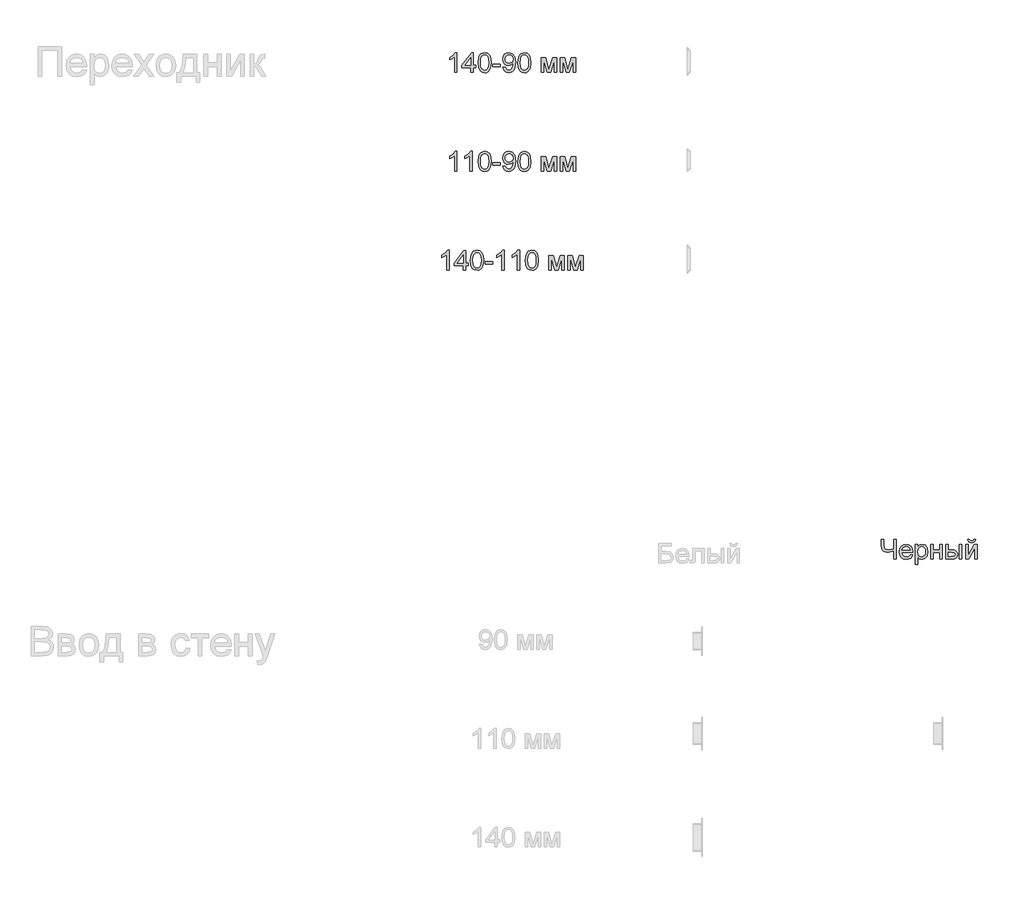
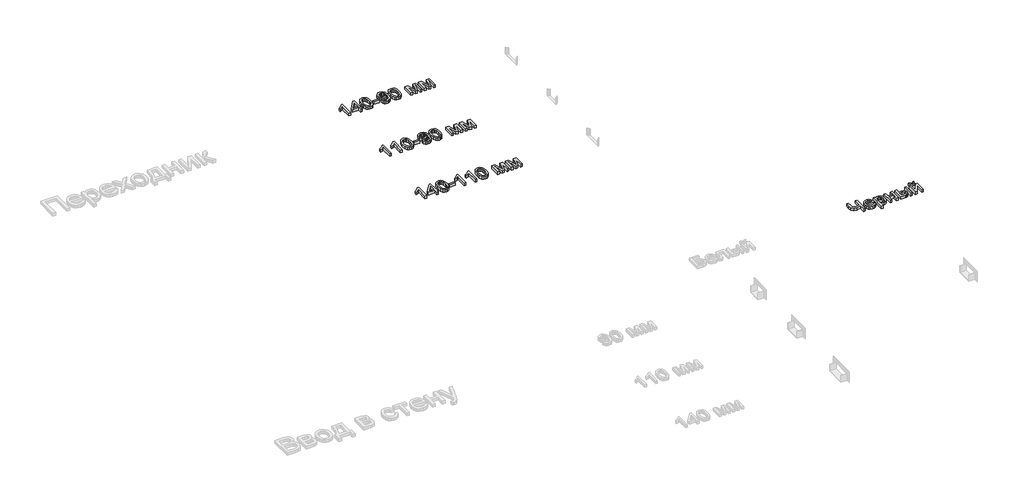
# One storey, part 6 of 48: 4 proxies.
"""IFC4 building model written with IfcOpenShell, lengths in millimetres."""

import ifcopenshell
import ifcopenshell.guid

model = None  # the IFC model being written
_history = None  # IfcOwnerHistory: only IFC2X3 demands one
_inside = {}  # id of a spatial element -> (the spatial element, [elements in it])
_under = {}  # id of a project, library or spatial element -> (it, [spatial elements below it])
_declared = {}  # id of a project -> (the project, [libraries it declares])
_typed = {}  # id of a type object -> (the type object, [elements of that type])
_made_of = {}  # id of a material, layer set ... -> (it, [elements and type objects made of it])


def new_model(schema):
    """Start an empty IFC model of exactly this schema.

    Asked for "IFC4X3", IfcOpenShell would pick the latest addendum, in which some entities
    have other attributes; the version numbers below select the first issue.
    IFC2X3 requires an IfcOwnerHistory on every rooted entity: one is made here for all.
    """
    global model, _history
    if schema == "IFC4X3":
        model = ifcopenshell.file(schema_version=(4, 3, 0, 0))
    else:
        model = ifcopenshell.file(schema=schema)
    _inside.clear()
    _under.clear()
    _declared.clear()
    _typed.clear()
    _made_of.clear()
    _history = None
    if model.schema == "IFC2X3":
        org = make("IfcOrganization", Name="unknown")
        user = make(
            "IfcPersonAndOrganization",
            ThePerson=make("IfcPerson", FamilyName="unknown"),
            TheOrganization=org,
        )
        app = make(
            "IfcApplication",
            ApplicationDeveloper=org,
            Version="unknown",
            ApplicationFullName="unknown",
            ApplicationIdentifier="unknown",
        )
        _history = make(
            "IfcOwnerHistory",
            OwningUser=user,
            OwningApplication=app,
            ChangeAction="ADDED",
            CreationDate=0,
        )
    return model


def make(cls, **values):
    """One entity of the class cls with the attributes given. An attribute that is None is left unset."""
    return model.create_entity(
        cls, **{name: value for name, value in values.items() if value is not None}
    )


def rooted(cls, **values):
    """An entity with a GlobalId (a new one), such as an element, a storey or a relation."""
    return make(cls, GlobalId=ifcopenshell.guid.new(), OwnerHistory=_history, **values)


def si_unit(unit_type, name, prefix=None):
    """IfcSIUnit, for example si_unit("LENGTHUNIT", "METRE", prefix="MILLI")."""
    return make("IfcSIUnit", UnitType=unit_type, Prefix=prefix, Name=name)


def assignment(units):
    """IfcUnitAssignment: the units of a project."""
    return None if units is None else make("IfcUnitAssignment", Units=units)


def point(xyz):
    """IfcCartesianPoint."""
    return None if xyz is None else make("IfcCartesianPoint", Coordinates=xyz)


def direction(xyz):
    """IfcDirection."""
    return None if xyz is None else make("IfcDirection", DirectionRatios=xyz)


def frame(location, z_axis=None, x_axis=None):
    """IfcAxis2Placement3D, a coordinate frame: its origin and axes. An axis left out is left unset."""
    return make(
        "IfcAxis2Placement3D",
        Location=point(location),
        Axis=direction(z_axis),
        RefDirection=direction(x_axis),
    )


def origin():
    """The frame at (0, 0, 0) with its axes left unset."""
    return frame((0.0, 0.0, 0.0))


def origin_with_axes():
    """The frame at (0, 0, 0) with the z axis (0, 0, 1) and the x axis (1, 0, 0) written out."""
    return frame((0.0, 0.0, 0.0), z_axis=(0.0, 0.0, 1.0), x_axis=(1.0, 0.0, 0.0))


def place(relative_to, where):
    """IfcLocalPlacement: puts the frame where relative to a parent placement (None: the world)."""
    return make(
        "IfcLocalPlacement", PlacementRelTo=relative_to, RelativePlacement=where
    )


def context(
    kind, dimensions, precision=None, world=None, true_north=None, identifier=None
):
    """IfcGeometricRepresentationContext, for example the 3D "Model" context."""
    return make(
        "IfcGeometricRepresentationContext",
        ContextIdentifier=identifier,
        ContextType=kind,
        CoordinateSpaceDimension=dimensions,
        Precision=precision,
        WorldCoordinateSystem=world,
        TrueNorth=true_north,
    )


def project(units=None, contexts=None):
    """IfcProject with its units and contexts."""
    return rooted(
        "IfcProject",
        Name="project",
        RepresentationContexts=contexts,
        UnitsInContext=assignment(units),
    )


def spatial(cls, under=None, at=None, **own):
    """A site, building, storey or space (cls), placed at a placement, below another one or the project."""
    s = rooted(cls, ObjectPlacement=at, **own)
    if under is not None:
        _under.setdefault(under.id(), (under, []))[1].append(s)
    return s


def polyline(points):
    """IfcPolyline through the points."""
    return make("IfcPolyline", Points=[point(p) for p in points])


def outline(outer, holes=None, kind="AREA"):
    """IfcArbitraryClosedProfileDef: a profile drawn as a closed curve; with holes, ...WithVoids."""
    if holes is None:
        return make("IfcArbitraryClosedProfileDef", ProfileType=kind, OuterCurve=outer)
    return make(
        "IfcArbitraryProfileDefWithVoids",
        ProfileType=kind,
        OuterCurve=outer,
        InnerCurves=holes,
    )


def extrude(swept, where, along, depth):
    """IfcExtrudedAreaSolid: the profile swept, set in the frame where, extruded along a direction by depth."""
    return make(
        "IfcExtrudedAreaSolid",
        SweptArea=swept,
        Position=where,
        ExtrudedDirection=direction(along),
        Depth=depth,
    )


def shape(context_of_items, identifier, shape_type, items):
    """IfcShapeRepresentation: the items that make up one representation, for example the "Body"."""
    return make(
        "IfcShapeRepresentation",
        ContextOfItems=context_of_items,
        RepresentationIdentifier=identifier,
        RepresentationType=shape_type,
        Items=items,
    )


def made_of(thing, what):
    """Note that an element or type object is made of a material, layer set ...; save() writes the relation."""
    if what is not None:
        _made_of.setdefault(what.id(), (what, []))[1].append(thing)
    return thing


def element(
    cls,
    number,
    at=None,
    inside=None,
    cuts=None,
    type_object=None,
    material=None,
    context=None,
    identifier="Body",
    shape_type=None,
    held_by="IfcProductDefinitionShape",
    body=None,
    shapes=None,
    **own,
):
    """One element of the class cls, such as IfcWall. Its Tag is "e" and its number.

    at: its placement. inside: the storey or other place that contains it. cuts: it is an
    opening in that element (IfcRelVoidsElement). A single representation is given by context,
    identifier, shape_type and body (its items); several are given by shapes. held_by: the class
    of the entity that holds the representations. save() writes the other relations.
    """
    e = rooted(cls, Tag="e%d" % number, ObjectPlacement=at, **own)
    if body is not None:
        shapes = [shape(context, identifier, shape_type, body)]
    if shapes is not None:
        e.Representation = make(held_by, Representations=shapes)
    if inside is not None:
        _inside.setdefault(inside.id(), (inside, []))[1].append(e)
    if cuts is not None:
        rooted(
            "IfcRelVoidsElement", RelatingBuildingElement=cuts, RelatedOpeningElement=e
        )
    if type_object is not None:
        _typed.setdefault(type_object.id(), (type_object, []))[1].append(e)
    return made_of(e, material)


def aggregate(whole, parts):
    """IfcRelAggregates: a whole, such as a stair, and the parts it consists of."""
    return rooted("IfcRelAggregates", RelatingObject=whole, RelatedObjects=parts)


def save(model, path):
    """Write the relations noted so far, then the file.

    IfcRelAggregates (storeys below a building ...), IfcRelContainedInSpatialStructure (elements
    in a storey), IfcRelDefinesByType, IfcRelAssociatesMaterial and IfcRelDeclares: one each for
    every whole, place, type object, material and project.
    """
    for whole, parts in _under.values():
        aggregate(whole, parts)
    for where, things in _inside.values():
        rooted(
            "IfcRelContainedInSpatialStructure",
            RelatedElements=things,
            RelatingStructure=where,
        )
    for kind, things in _typed.values():
        rooted("IfcRelDefinesByType", RelatedObjects=things, RelatingType=kind)
    for what, things in _made_of.values():
        rooted("IfcRelAssociatesMaterial", RelatedObjects=things, RelatingMaterial=what)
    for by, libraries in _declared.values():
        rooted("IfcRelDeclares", RelatingContext=by, RelatedDefinitions=libraries)
    model.write(path)


model = new_model("IFC4")

# Units and contexts
model_context = context("Model", 3, world=origin())
ifc_project = project(units=[si_unit("LENGTHUNIT", "METRE", prefix="MILLI")], contexts=[model_context])

# Site, building, storey
site = spatial("IfcSite", under=ifc_project)
building = spatial("IfcBuilding", under=site)
storey = spatial("IfcBuildingStorey", under=building, Name="Этаж 01", Elevation=0.0)

# Proxies
placement = place(None, origin())
element("IfcBuildingElementProxy", 1, Name="100 мм Arial", ObjectType="100 мм Arial", at=placement, inside=storey, context=model_context, shape_type="SweptSolid", body=[
    extrude(outline(polyline([(11790.2363629, -29206.4488858), (11777.6793242, -29206.4488858), (11777.6793242, -29128.1635972), (11765.784473, -29136.6371459), (11752.5652466, -29142.9769789), (11752.5652466, -29131.1066532), (11770.9716091, -29119.3589548), (11782.142959, -29105.9925757), (11790.2363629, -29105.9925757), (11790.2363629, -29206.4488858)])), origin_with_axes(), (0.0, 0.0, 1.0), 20.0),
    extrude(outline(polyline([(11860.869706, -29206.4488858), (11860.869706, -29182.9044381), (11815.3504405, -29182.9044381), (11815.3504405, -29170.3473994), (11864.0089657, -29107.5622055), (11873.4267448, -29107.5622055), (11873.4267448, -29170.3473994), (11885.9837835, -29170.3473994), (11885.9837835, -29182.9044381), (11873.4267448, -29182.9044381), (11873.4267448, -29206.4488858), (11860.869706, -29206.4488858)]), holes=[polyline([(11860.869706, -29170.3473994), (11860.869706, -29131.5481116), (11830.8014843, -29170.3473994), (11860.869706, -29170.3473994)])]), origin_with_axes(), (0.0, 0.0, 1.0), 20.0),
    extrude(outline(polyline([(11896.9711925, -29157.0300711), (11900.6622752, -29128.126809), (11911.6251586, -29111.4617547), (11929.9334192, -29105.9925757), (11944.5996481, -29109.2299372), (11954.7286657, -29118.5618772), (11960.6147776, -29133.4243098), (11962.895646, -29157.0300711), (11959.2413515, -29185.8107059), (11948.3152563, -29202.5125485), (11940.0838966, -29206.6420239), (11929.9334192, -29208.0185157), (11916.8858711, -29205.6272827), (11906.9775827, -29198.4535838), (11899.47279, -29181.463567), (11896.9711925, -29157.0300711)]), holes=[polyline([(11909.5282312, -29157.0055457), (11910.9997592, -29176.7577431), (11915.4143432, -29188.1896761), (11921.9871681, -29193.6435267), (11929.9334192, -29195.4614769), (11937.8796703, -29193.6373953), (11944.4524953, -29188.1651507), (11948.8670793, -29176.7270863), (11950.3386072, -29157.0055457), (11948.9161302, -29137.6978723), (11944.648699, -29126.1770345), (11938.0881368, -29120.4564694), (11929.7862664, -29118.5496144), (11921.9258545, -29120.2296089), (11915.6105469, -29125.2695922), (11911.0488102, -29137.5077999), (11909.5282312, -29157.0055457)])]), origin_with_axes(), (0.0, 0.0, 1.0), 20.0),
    extrude(outline(polyline([(11970.7437952, -29176.6259187), (11970.7437952, -29164.06888), (12009.9845414, -29164.06888), (12009.9845414, -29176.6259187), (11970.7437952, -29176.6259187)])), origin_with_axes(), (0.0, 0.0, 1.0), 20.0),
    extrude(outline(polyline([(12022.5415802, -29181.3348083), (12035.0986189, -29179.7651784), (12040.7394762, -29191.7458687), (12051.4325795, -29195.4614769), (12061.5983853, -29193.0702439), (12068.4900414, -29186.6813599), (12072.598057, -29175.7675274), (12074.4129415, -29161.1994004), (12074.3393651, -29158.7468538), (12064.2961866, -29168.2627347), (12050.5251373, -29171.9170292), (12039.0748102, -29169.6852118), (12029.5436008, -29162.9897595), (12023.1148629, -29152.646144), (12020.9719503, -29139.4698372), (12023.2190962, -29125.8582034), (12029.9605337, -29115.1896256), (12040.0864856, -29108.2918381), (12052.4871746, -29105.9925757), (12070.3785023, -29111.2410255), (12082.6902864, -29126.2015599), (12086.8964038, -29154.3077444), (12082.7025491, -29184.8051618), (12077.4878218, -29194.7962236), (12070.2313495, -29202.0833528), (12061.2458317, -29206.534725), (12050.8439683, -29208.0185157), (12040.1079454, -29206.2680105), (12031.5424263, -29201.016495), (12025.5520812, -29192.595063), (12022.5415802, -29181.3348083)]), holes=[polyline([(12074.3393651, -29139.1755316), (12072.9843331, -29130.6651948), (12068.919237, -29124.1168953), (12062.6100608, -29119.9414347), (12054.5227883, -29118.5496144), (12046.1350788, -29120.0487336), (12039.415101, -29124.546091), (12035.0005171, -29131.42855), (12033.5289891, -29140.0829739), (12034.9208093, -29147.8422183), (12039.0962699, -29154.001176), (12045.6507008, -29158.0202868), (12054.1794317, -29159.3599904), (12068.6617196, -29154.001176), (12072.9199537, -29147.6153577), (12074.3393651, -29139.1755316)])]), origin_with_axes(), (0.0, 0.0, 1.0), 20.0),
    extrude(outline(polyline([(12097.8838128, -29157.0300711), (12101.5748955, -29128.126809), (12112.5377789, -29111.4617547), (12130.8460395, -29105.9925757), (12145.5122684, -29109.2299372), (12155.641286, -29118.5618772), (12161.5273979, -29133.4243098), (12163.8082663, -29157.0300711), (12160.1539718, -29185.8107059), (12149.2278766, -29202.5125485), (12140.9965169, -29206.6420239), (12130.8460395, -29208.0185157), (12117.7984914, -29205.6272827), (12107.890203, -29198.4535838), (12100.3854103, -29181.463567), (12097.8838128, -29157.0300711)]), holes=[polyline([(12110.4408515, -29157.0055457), (12111.9123795, -29176.7577431), (12116.3269635, -29188.1896761), (12122.8997884, -29193.6435267), (12130.8460395, -29195.4614769), (12138.7922906, -29193.6373953), (12145.3651156, -29188.1651507), (12149.7796996, -29176.7270863), (12151.2512275, -29157.0055457), (12149.8287505, -29137.6978723), (12145.5613193, -29126.1770345), (12139.0007571, -29120.4564694), (12130.6988867, -29118.5496144), (12122.8384748, -29120.2296089), (12116.5231672, -29125.2695922), (12111.9614305, -29137.5077999), (12110.4408515, -29157.0055457)])]), origin_with_axes(), (0.0, 0.0, 1.0), 20.0),
    extrude(outline(polyline([(12217.1756811, -29132.6762831), (12238.7826169, -29132.6762831), (12255.4354086, -29191.733606), (12273.3880499, -29132.6762831), (12294.0875435, -29132.6762831), (12294.0875435, -29206.4488858), (12281.5305048, -29206.4488858), (12281.5305048, -29147.0482063), (12263.4797615, -29206.4488858), (12246.9986481, -29206.4488858), (12229.7327198, -29144.2032522), (12229.7327198, -29206.4488858), (12217.1756811, -29206.4488858), (12217.1756811, -29132.6762831)])), origin_with_axes(), (0.0, 0.0, 1.0), 20.0),
    extrude(outline(polyline([(12312.9231017, -29132.6762831), (12334.5300375, -29132.6762831), (12351.1828292, -29191.733606), (12369.1354705, -29132.6762831), (12389.8349641, -29132.6762831), (12389.8349641, -29206.4488858), (12377.2779254, -29206.4488858), (12377.2779254, -29147.0482063), (12359.2271821, -29206.4488858), (12342.7460688, -29206.4488858), (12325.4801405, -29144.2032522), (12325.4801405, -29206.4488858), (12312.9231017, -29206.4488858), (12312.9231017, -29132.6762831)])), origin_with_axes(), (0.0, 0.0, 1.0), 20.0),
])
element("IfcBuildingElementProxy", 2, Name="100 мм Arial", ObjectType="100 мм Arial", at=placement, inside=storey, context=model_context, shape_type="SweptSolid", body=[
    extrude(outline(polyline([(11790.2363629, -29706.4488858), (11777.6793242, -29706.4488858), (11777.6793242, -29628.1635972), (11765.784473, -29636.6371459), (11752.5652466, -29642.9769789), (11752.5652466, -29631.1066532), (11770.9716091, -29619.3589548), (11782.142959, -29605.9925757), (11790.2363629, -29605.9925757), (11790.2363629, -29706.4488858)])), origin_with_axes(), (0.0, 0.0, 1.0), 20.0),
    extrude(outline(polyline([(11867.1482254, -29706.4488858), (11854.5911866, -29706.4488858), (11854.5911866, -29628.1635972), (11842.6963354, -29636.6371459), (11829.4771091, -29642.9769789), (11829.4771091, -29631.1066532), (11847.8834716, -29619.3589548), (11859.0548215, -29605.9925757), (11867.1482254, -29605.9925757), (11867.1482254, -29706.4488858)])), origin_with_axes(), (0.0, 0.0, 1.0), 20.0),
    extrude(outline(polyline([(11896.9711925, -29657.0300711), (11900.6622752, -29628.126809), (11911.6251586, -29611.4617547), (11929.9334192, -29605.9925757), (11944.5996481, -29609.2299372), (11954.7286657, -29618.5618772), (11960.6147776, -29633.4243098), (11962.895646, -29657.0300711), (11959.2413515, -29685.8107059), (11948.3152563, -29702.5125485), (11940.0838966, -29706.6420239), (11929.9334192, -29708.0185157), (11916.8858711, -29705.6272827), (11906.9775827, -29698.4535838), (11899.47279, -29681.463567), (11896.9711925, -29657.0300711)]), holes=[polyline([(11909.5282312, -29657.0055457), (11910.9997592, -29676.7577431), (11915.4143432, -29688.1896761), (11921.9871681, -29693.6435267), (11929.9334192, -29695.4614769), (11937.8796703, -29693.6373953), (11944.4524953, -29688.1651507), (11948.8670793, -29676.7270863), (11950.3386072, -29657.0055457), (11948.9161302, -29637.6978723), (11944.648699, -29626.1770345), (11938.0881368, -29620.4564694), (11929.7862664, -29618.5496144), (11921.9258545, -29620.2296089), (11915.6105469, -29625.2695922), (11911.0488102, -29637.5077999), (11909.5282312, -29657.0055457)])]), origin_with_axes(), (0.0, 0.0, 1.0), 20.0),
    extrude(outline(polyline([(11970.7437952, -29676.6259187), (11970.7437952, -29664.06888), (12009.9845414, -29664.06888), (12009.9845414, -29676.6259187), (11970.7437952, -29676.6259187)])), origin_with_axes(), (0.0, 0.0, 1.0), 20.0),
    extrude(outline(polyline([(12022.5415802, -29681.3348083), (12035.0986189, -29679.7651784), (12040.7394762, -29691.7458687), (12051.4325795, -29695.4614769), (12061.5983853, -29693.0702439), (12068.4900414, -29686.6813599), (12072.598057, -29675.7675274), (12074.4129415, -29661.1994004), (12074.3393651, -29658.7468538), (12064.2961866, -29668.2627347), (12050.5251373, -29671.9170292), (12039.0748102, -29669.6852118), (12029.5436008, -29662.9897595), (12023.1148629, -29652.646144), (12020.9719503, -29639.4698372), (12023.2190962, -29625.8582034), (12029.9605337, -29615.1896256), (12040.0864856, -29608.2918381), (12052.4871746, -29605.9925757), (12070.3785023, -29611.2410255), (12082.6902864, -29626.2015599), (12086.8964038, -29654.3077444), (12082.7025491, -29684.8051618), (12077.4878218, -29694.7962236), (12070.2313495, -29702.0833528), (12061.2458317, -29706.534725), (12050.8439683, -29708.0185157), (12040.1079454, -29706.2680105), (12031.5424263, -29701.016495), (12025.5520812, -29692.595063), (12022.5415802, -29681.3348083)]), holes=[polyline([(12074.3393651, -29639.1755316), (12072.9843331, -29630.6651948), (12068.919237, -29624.1168953), (12062.6100608, -29619.9414347), (12054.5227883, -29618.5496144), (12046.1350788, -29620.0487336), (12039.415101, -29624.546091), (12035.0005171, -29631.42855), (12033.5289891, -29640.0829739), (12034.9208093, -29647.8422183), (12039.0962699, -29654.001176), (12045.6507008, -29658.0202868), (12054.1794317, -29659.3599904), (12068.6617196, -29654.001176), (12072.9199537, -29647.6153577), (12074.3393651, -29639.1755316)])]), origin_with_axes(), (0.0, 0.0, 1.0), 20.0),
    extrude(outline(polyline([(12097.8838128, -29657.0300711), (12101.5748955, -29628.126809), (12112.5377789, -29611.4617547), (12130.8460395, -29605.9925757), (12145.5122684, -29609.2299372), (12155.641286, -29618.5618772), (12161.5273979, -29633.4243098), (12163.8082663, -29657.0300711), (12160.1539718, -29685.8107059), (12149.2278766, -29702.5125485), (12140.9965169, -29706.6420239), (12130.8460395, -29708.0185157), (12117.7984914, -29705.6272827), (12107.890203, -29698.4535838), (12100.3854103, -29681.463567), (12097.8838128, -29657.0300711)]), holes=[polyline([(12110.4408515, -29657.0055457), (12111.9123795, -29676.7577431), (12116.3269635, -29688.1896761), (12122.8997884, -29693.6435267), (12130.8460395, -29695.4614769), (12138.7922906, -29693.6373953), (12145.3651156, -29688.1651507), (12149.7796996, -29676.7270863), (12151.2512275, -29657.0055457), (12149.8287505, -29637.6978723), (12145.5613193, -29626.1770345), (12139.0007571, -29620.4564694), (12130.6988867, -29618.5496144), (12122.8384748, -29620.2296089), (12116.5231672, -29625.2695922), (12111.9614305, -29637.5077999), (12110.4408515, -29657.0055457)])]), origin_with_axes(), (0.0, 0.0, 1.0), 20.0),
    extrude(outline(polyline([(12217.1756811, -29632.6762831), (12238.7826169, -29632.6762831), (12255.4354086, -29691.733606), (12273.3880499, -29632.6762831), (12294.0875435, -29632.6762831), (12294.0875435, -29706.4488858), (12281.5305048, -29706.4488858), (12281.5305048, -29647.0482063), (12263.4797615, -29706.4488858), (12246.9986481, -29706.4488858), (12229.7327198, -29644.2032522), (12229.7327198, -29706.4488858), (12217.1756811, -29706.4488858), (12217.1756811, -29632.6762831)])), origin_with_axes(), (0.0, 0.0, 1.0), 20.0),
    extrude(outline(polyline([(12312.9231017, -29632.6762831), (12334.5300375, -29632.6762831), (12351.1828292, -29691.733606), (12369.1354705, -29632.6762831), (12389.8349641, -29632.6762831), (12389.8349641, -29706.4488858), (12377.2779254, -29706.4488858), (12377.2779254, -29647.0482063), (12359.2271821, -29706.4488858), (12342.7460688, -29706.4488858), (12325.4801405, -29644.2032522), (12325.4801405, -29706.4488858), (12312.9231017, -29706.4488858), (12312.9231017, -29632.6762831)])), origin_with_axes(), (0.0, 0.0, 1.0), 20.0),
])
element("IfcBuildingElementProxy", 3, Name="100 мм Arial", ObjectType="100 мм Arial", at=placement, inside=storey, context=model_context, shape_type="SweptSolid", body=[
    extrude(outline(polyline([(11751.7804317, -30206.4488858), (11739.2233929, -30206.4488858), (11739.2233929, -30128.1635972), (11727.3285418, -30136.6371459), (11714.1093154, -30142.9769789), (11714.1093154, -30131.1066532), (11732.5156779, -30119.3589548), (11743.6870278, -30105.9925757), (11751.7804317, -30105.9925757), (11751.7804317, -30206.4488858)])), origin_with_axes(), (0.0, 0.0, 1.0), 20.0),
    extrude(outline(polyline([(11822.4137748, -30206.4488858), (11822.4137748, -30182.9044381), (11776.8945092, -30182.9044381), (11776.8945092, -30170.3473994), (11825.5530345, -30107.5622055), (11834.9708135, -30107.5622055), (11834.9708135, -30170.3473994), (11847.5278523, -30170.3473994), (11847.5278523, -30182.9044381), (11834.9708135, -30182.9044381), (11834.9708135, -30206.4488858), (11822.4137748, -30206.4488858)]), holes=[polyline([(11822.4137748, -30170.3473994), (11822.4137748, -30131.5481116), (11792.345553, -30170.3473994), (11822.4137748, -30170.3473994)])]), origin_with_axes(), (0.0, 0.0, 1.0), 20.0),
    extrude(outline(polyline([(11858.5152612, -30157.0300711), (11862.2063439, -30128.126809), (11873.1692274, -30111.4617547), (11891.477488, -30105.9925757), (11906.1437169, -30109.2299372), (11916.2727345, -30118.5618772), (11922.1588464, -30133.4243098), (11924.4397148, -30157.0300711), (11920.7854203, -30185.8107059), (11909.859325, -30202.5125485), (11901.6279654, -30206.6420239), (11891.477488, -30208.0185157), (11878.4299399, -30205.6272827), (11868.5216515, -30198.4535838), (11861.0168588, -30181.463567), (11858.5152612, -30157.0300711)]), holes=[polyline([(11871.0723, -30157.0055457), (11872.543828, -30176.7577431), (11876.9584119, -30188.1896761), (11883.5312369, -30193.6435267), (11891.477488, -30195.4614769), (11899.4237391, -30193.6373953), (11905.9965641, -30188.1651507), (11910.411148, -30176.7270863), (11911.882676, -30157.0055457), (11910.460199, -30137.6978723), (11906.1927678, -30126.1770345), (11899.6322056, -30120.4564694), (11891.3303352, -30118.5496144), (11883.4699232, -30120.2296089), (11877.1546157, -30125.2695922), (11872.5928789, -30137.5077999), (11871.0723, -30157.0055457)])]), origin_with_axes(), (0.0, 0.0, 1.0), 20.0),
    extrude(outline(polyline([(11932.287864, -30176.6259187), (11932.287864, -30164.06888), (11971.5286102, -30164.06888), (11971.5286102, -30176.6259187), (11932.287864, -30176.6259187)])), origin_with_axes(), (0.0, 0.0, 1.0), 20.0),
    extrude(outline(polyline([(12029.6049145, -30206.4488858), (12017.0478757, -30206.4488858), (12017.0478757, -30128.1635972), (12005.1530245, -30136.6371459), (11991.9337982, -30142.9769789), (11991.9337982, -30131.1066532), (12010.3401607, -30119.3589548), (12021.5115106, -30105.9925757), (12029.6049145, -30105.9925757), (12029.6049145, -30206.4488858)])), origin_with_axes(), (0.0, 0.0, 1.0), 20.0),
    extrude(outline(polyline([(12106.5167769, -30206.4488858), (12093.9597382, -30206.4488858), (12093.9597382, -30128.1635972), (12082.064887, -30136.6371459), (12068.8456606, -30142.9769789), (12068.8456606, -30131.1066532), (12087.2520231, -30119.3589548), (12098.423373, -30105.9925757), (12106.5167769, -30105.9925757), (12106.5167769, -30206.4488858)])), origin_with_axes(), (0.0, 0.0, 1.0), 20.0),
    extrude(outline(polyline([(12136.339744, -30157.0300711), (12140.0308267, -30128.126809), (12150.9937101, -30111.4617547), (12169.3019708, -30105.9925757), (12183.9681996, -30109.2299372), (12194.0972172, -30118.5618772), (12199.9833292, -30133.4243098), (12202.2641975, -30157.0300711), (12198.609903, -30185.8107059), (12187.6838078, -30202.5125485), (12179.4524481, -30206.6420239), (12169.3019708, -30208.0185157), (12156.2544227, -30205.6272827), (12146.3461343, -30198.4535838), (12138.8413416, -30181.463567), (12136.339744, -30157.0300711)]), holes=[polyline([(12148.8967828, -30157.0055457), (12150.3683107, -30176.7577431), (12154.7828947, -30188.1896761), (12161.3557197, -30193.6435267), (12169.3019708, -30195.4614769), (12177.2482219, -30193.6373953), (12183.8210468, -30188.1651507), (12188.2356308, -30176.7270863), (12189.7071588, -30157.0055457), (12188.2846817, -30137.6978723), (12184.0172506, -30126.1770345), (12177.4566883, -30120.4564694), (12169.154818, -30118.5496144), (12161.294406, -30120.2296089), (12154.9790984, -30125.2695922), (12150.4173617, -30137.5077999), (12148.8967828, -30157.0055457)])]), origin_with_axes(), (0.0, 0.0, 1.0), 20.0),
    extrude(outline(polyline([(12255.6316123, -30132.6762831), (12277.2385482, -30132.6762831), (12293.8913398, -30191.733606), (12311.8439812, -30132.6762831), (12332.5434748, -30132.6762831), (12332.5434748, -30206.4488858), (12319.986436, -30206.4488858), (12319.986436, -30147.0482063), (12301.9356928, -30206.4488858), (12285.4545794, -30206.4488858), (12268.1886511, -30144.2032522), (12268.1886511, -30206.4488858), (12255.6316123, -30206.4488858), (12255.6316123, -30132.6762831)])), origin_with_axes(), (0.0, 0.0, 1.0), 20.0),
    extrude(outline(polyline([(12351.3790329, -30132.6762831), (12372.9859688, -30132.6762831), (12389.6387604, -30191.733606), (12407.5914018, -30132.6762831), (12428.2908954, -30132.6762831), (12428.2908954, -30206.4488858), (12415.7338566, -30206.4488858), (12415.7338566, -30147.0482063), (12397.6831134, -30206.4488858), (12381.202, -30206.4488858), (12363.9360717, -30144.2032522), (12363.9360717, -30206.4488858), (12351.3790329, -30206.4488858), (12351.3790329, -30132.6762831)])), origin_with_axes(), (0.0, 0.0, 1.0), 20.0),
])
element("IfcBuildingElementProxy", 4, Name="100 мм Arial", ObjectType="100 мм Arial", at=placement, inside=storey, context=model_context, shape_type="SweptSolid", body=[
    extrude(outline(polyline([(14011.6331218, -31669.5408408), (13999.076083, -31669.5408408), (13999.076083, -31629.319076), (13967.9777917, -31636.5786141), (13949.6204802, -31631.6122071), (13938.9764278, -31619.0061174), (13936.2908892, -31599.0055996), (13936.2908892, -31569.0845307), (13948.847928, -31569.0845307), (13948.847928, -31597.3133425), (13950.3562442, -31610.8912538), (13954.8811927, -31618.8589646), (13969.3757433, -31624.0215753), (13999.076083, -31617.7921069), (13999.076083, -31569.0845307), (14011.6331218, -31569.0845307), (14011.6331218, -31669.5408408)])), origin_with_axes(), (0.0, 0.0, 1.0), 20.0),
    extrude(outline(polyline([(14083.6889419, -31647.566023), (14096.000726, -31649.1356528), (14091.5646823, -31658.4124105), (14084.4860196, -31665.3469861), (14074.9241534, -31669.6695995), (14063.0384993, -31671.1104707), (14048.3048254, -31668.6242015), (14036.9679286, -31661.1653941), (14029.7390473, -31649.2184263), (14027.3294203, -31633.2676761), (14029.7635728, -31616.7804314), (14037.0660304, -31604.4502532), (14048.2496431, -31596.7615195), (14062.3272608, -31594.1986082), (14075.9664857, -31596.7553881), (14086.8649898, -31604.4257277), (14094.0110976, -31616.7313804), (14096.3931335, -31633.1940997), (14096.3195571, -31636.5786141), (14039.886459, -31636.5786141), (14042.0600285, -31645.9779991), (14047.1092089, -31652.8880492), (14054.3963381, -31657.1370862), (14063.2837539, -31658.5534319), (14075.595538, -31655.929207), (14083.6889419, -31647.566023)]), holes=[polyline([(14039.886459, -31624.0215753), (14083.8360947, -31624.0215753), (14078.8083741, -31612.6417589), (14071.4875224, -31608.227175), (14062.2782098, -31606.755647), (14046.8149033, -31611.4522738), (14041.9496639, -31616.9429126), (14039.886459, -31624.0215753)])]), origin_with_axes(), (0.0, 0.0, 1.0), 20.0),
    extrude(outline(polyline([(14108.9501723, -31697.7941781), (14108.9501723, -31595.7682381), (14121.507211, -31595.7682381), (14121.507211, -31608.0800222), (14130.1892261, -31597.6689617), (14141.912399, -31594.1986082), (14157.8294267, -31599.0546506), (14168.2282244, -31612.7398608), (14171.7353661, -31632.0904537), (14167.7745033, -31652.4343281), (14156.2720596, -31666.2912166), (14140.3918201, -31671.1104707), (14129.4657249, -31667.8853719), (14121.507211, -31659.7306543), (14121.507211, -31697.7941781), (14108.9501723, -31697.7941781)]), holes=[polyline([(14121.507211, -31633.2431507), (14122.8653087, -31644.5003397), (14126.9396018, -31652.3730144), (14132.9514068, -31657.0083275), (14140.12204, -31658.5534319), (14147.4091692, -31656.9531452), (14153.5742583, -31652.1522852), (14157.7773101, -31643.9914363), (14159.1783274, -31632.3111829), (14157.8110326, -31621.1153076), (14153.7091484, -31613.1322683), (14147.7065405, -31608.3498023), (14140.6370748, -31606.755647), (14133.540018, -31608.4509699), (14127.3074838, -31613.5369384), (14122.9572792, -31621.8541372), (14121.507211, -31633.2431507)])]), origin_with_axes(), (0.0, 0.0, 1.0), 20.0),
    extrude(outline(polyline([(14185.8620347, -31595.7682381), (14198.4190735, -31595.7682381), (14198.4190735, -31624.0215753), (14231.3813003, -31624.0215753), (14231.3813003, -31595.7682381), (14243.938339, -31595.7682381), (14243.938339, -31669.5408408), (14231.3813003, -31669.5408408), (14231.3813003, -31636.5786141), (14198.4190735, -31636.5786141), (14198.4190735, -31669.5408408), (14185.8620347, -31669.5408408), (14185.8620347, -31595.7682381)])), origin_with_axes(), (0.0, 0.0, 1.0), 20.0),
    extrude(outline(polyline([(14331.8376104, -31595.7682381), (14344.3946492, -31595.7682381), (14344.3946492, -31669.5408408), (14331.8376104, -31669.5408408), (14331.8376104, -31595.7682381)])), origin_with_axes(), (0.0, 0.0, 1.0), 20.0),
    extrude(outline(polyline([(14262.7738972, -31595.7682381), (14275.330936, -31595.7682381), (14275.330936, -31622.4519455), (14290.8555562, -31622.4519455), (14304.2740519, -31624.024641), (14314.2160629, -31628.7427276), (14320.3688892, -31636.2260605), (14322.4198313, -31646.094495), (14320.699983, -31655.0800128), (14315.540438, -31662.6614475), (14306.6039712, -31667.8209925), (14293.5533575, -31669.5408408), (14262.7738972, -31669.5408408), (14262.7738972, -31595.7682381)]), holes=[polyline([(14275.330936, -31656.9838021), (14288.2313313, -31656.9838021), (14304.8841229, -31654.3473144), (14309.8627926, -31646.1190205), (14306.1717099, -31638.3934986), (14289.8745375, -31635.0089842), (14275.330936, -31635.0089842), (14275.330936, -31656.9838021)])]), origin_with_axes(), (0.0, 0.0, 1.0), 20.0),
    extrude(outline(polyline([(14363.2302073, -31595.7682381), (14375.7872461, -31595.7682381), (14375.7872461, -31652.0296579), (14406.6402828, -31595.7682381), (14422.8761415, -31595.7682381), (14422.8761415, -31669.5408408), (14410.3191027, -31669.5408408), (14410.3191027, -31613.6227776), (14379.6622698, -31669.5408408), (14363.2302073, -31669.5408408), (14363.2302073, -31595.7682381)])), origin_with_axes(), (0.0, 0.0, 1.0), 20.0),
    extrude(outline(polyline([(14404.0405833, -31569.0845307), (14413.4583624, -31569.0845307), (14407.363784, -31583.0517838), (14393.8379893, -31587.9200889), (14379.1962859, -31583.088572), (14372.6479864, -31569.0845307), (14382.0657655, -31569.0845307), (14385.5974326, -31576.1601277), (14392.7098179, -31578.5023098), (14400.5089162, -31576.2337041), (14404.0405833, -31569.0845307)])), origin_with_axes(), (0.0, 0.0, 1.0), 20.0),
])

save(model, "model.ifc")
